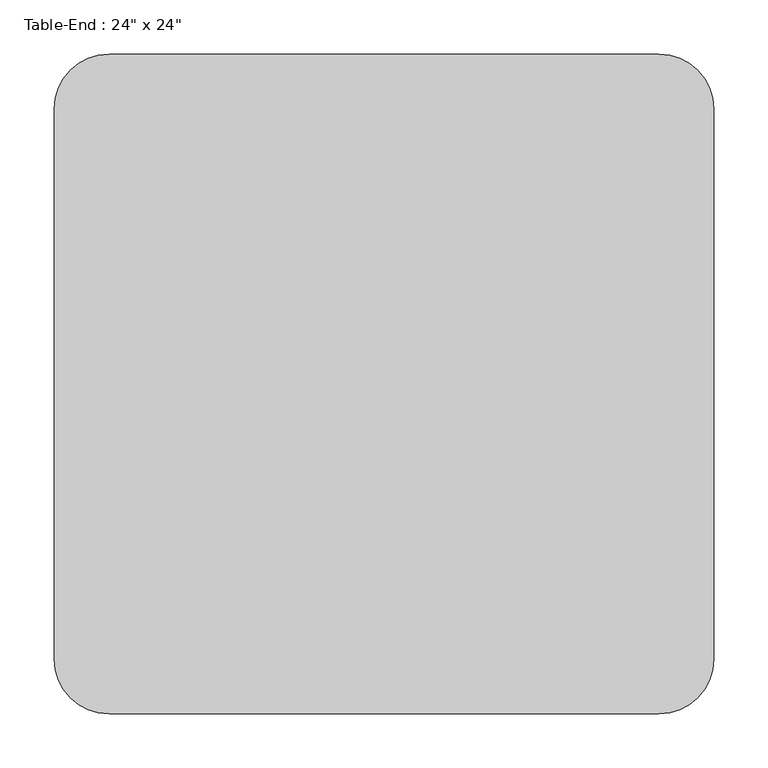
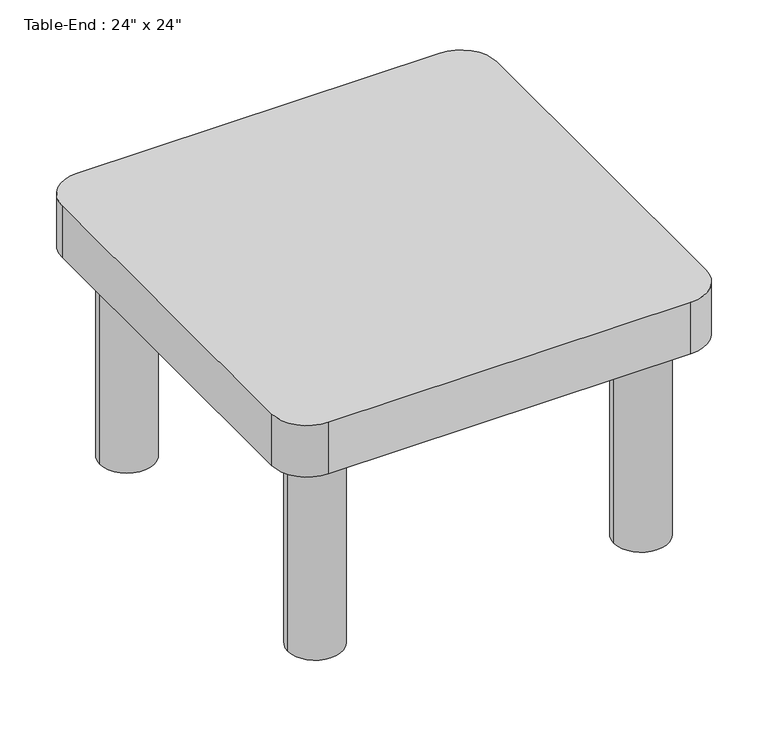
"""IFC4 building model written with IfcOpenShell, lengths in millimetres: furniture geometry."""

import ifcopenshell
import ifcopenshell.guid

model = None  # the IFC model being written
_history = None  # IfcOwnerHistory: only IFC2X3 demands one
_inside = {}  # id of a spatial element -> (the spatial element, [elements in it])
_under = {}  # id of a project, library or spatial element -> (it, [spatial elements below it])
_declared = {}  # id of a project -> (the project, [libraries it declares])
_typed = {}  # id of a type object -> (the type object, [elements of that type])
_made_of = {}  # id of a material, layer set ... -> (it, [elements and type objects made of it])


def new_model(schema):
    """Start an empty IFC model of exactly this schema.

    Asked for "IFC4X3", IfcOpenShell would pick the latest addendum, in which some entities
    have other attributes; the version numbers below select the first issue.
    IFC2X3 requires an IfcOwnerHistory on every rooted entity: one is made here for all.
    """
    global model, _history
    if schema == "IFC4X3":
        model = ifcopenshell.file(schema_version=(4, 3, 0, 0))
    else:
        model = ifcopenshell.file(schema=schema)
    _inside.clear()
    _under.clear()
    _declared.clear()
    _typed.clear()
    _made_of.clear()
    _history = None
    if model.schema == "IFC2X3":
        org = make("IfcOrganization", Name="unknown")
        user = make(
            "IfcPersonAndOrganization",
            ThePerson=make("IfcPerson", FamilyName="unknown"),
            TheOrganization=org,
        )
        app = make(
            "IfcApplication",
            ApplicationDeveloper=org,
            Version="unknown",
            ApplicationFullName="unknown",
            ApplicationIdentifier="unknown",
        )
        _history = make(
            "IfcOwnerHistory",
            OwningUser=user,
            OwningApplication=app,
            ChangeAction="ADDED",
            CreationDate=0,
        )
    return model


def make(cls, **values):
    """One entity of the class cls with the attributes given. An attribute that is None is left unset."""
    return model.create_entity(
        cls, **{name: value for name, value in values.items() if value is not None}
    )


def rooted(cls, **values):
    """An entity with a GlobalId (a new one), such as an element, a storey or a relation."""
    return make(cls, GlobalId=ifcopenshell.guid.new(), OwnerHistory=_history, **values)


def si_unit(unit_type, name, prefix=None):
    """IfcSIUnit, for example si_unit("LENGTHUNIT", "METRE", prefix="MILLI")."""
    return make("IfcSIUnit", UnitType=unit_type, Prefix=prefix, Name=name)


def assignment(units):
    """IfcUnitAssignment: the units of a project."""
    return None if units is None else make("IfcUnitAssignment", Units=units)


def point(xyz):
    """IfcCartesianPoint."""
    return None if xyz is None else make("IfcCartesianPoint", Coordinates=xyz)


def direction(xyz):
    """IfcDirection."""
    return None if xyz is None else make("IfcDirection", DirectionRatios=xyz)


def frame(location, z_axis=None, x_axis=None):
    """IfcAxis2Placement3D, a coordinate frame: its origin and axes. An axis left out is left unset."""
    return make(
        "IfcAxis2Placement3D",
        Location=point(location),
        Axis=direction(z_axis),
        RefDirection=direction(x_axis),
    )


def frame_2d(location, x_axis=None):
    """IfcAxis2Placement2D, a coordinate frame in the plane: its origin and x axis."""
    return make(
        "IfcAxis2Placement2D", Location=point(location), RefDirection=direction(x_axis)
    )


def origin():
    """The frame at (0, 0, 0) with its axes left unset."""
    return frame((0.0, 0.0, 0.0))


def origin_with_axes():
    """The frame at (0, 0, 0) with the z axis (0, 0, 1) and the x axis (1, 0, 0) written out."""
    return frame((0.0, 0.0, 0.0), z_axis=(0.0, 0.0, 1.0), x_axis=(1.0, 0.0, 0.0))


def place(relative_to, where):
    """IfcLocalPlacement: puts the frame where relative to a parent placement (None: the world)."""
    return make(
        "IfcLocalPlacement", PlacementRelTo=relative_to, RelativePlacement=where
    )


def context(
    kind, dimensions, precision=None, world=None, true_north=None, identifier=None
):
    """IfcGeometricRepresentationContext, for example the 3D "Model" context."""
    return make(
        "IfcGeometricRepresentationContext",
        ContextIdentifier=identifier,
        ContextType=kind,
        CoordinateSpaceDimension=dimensions,
        Precision=precision,
        WorldCoordinateSystem=world,
        TrueNorth=true_north,
    )


def project(units=None, contexts=None):
    """IfcProject with its units and contexts."""
    return rooted(
        "IfcProject",
        Name="project",
        RepresentationContexts=contexts,
        UnitsInContext=assignment(units),
    )


def spatial(cls, under=None, at=None, **own):
    """A site, building, storey or space (cls), placed at a placement, below another one or the project."""
    s = rooted(cls, ObjectPlacement=at, **own)
    if under is not None:
        _under.setdefault(under.id(), (under, []))[1].append(s)
    return s


def polyline(points):
    """IfcPolyline through the points."""
    return make("IfcPolyline", Points=[point(p) for p in points])


def circle_curve(where, radius):
    """IfcCircle in the frame where."""
    return make("IfcCircle", Position=where, Radius=radius)


def trimmed(basis, trim1, trim2, sense, master):
    """IfcTrimmedCurve: the piece of a basis curve between two trims."""
    return make(
        "IfcTrimmedCurve",
        BasisCurve=basis,
        Trim1=trim1,
        Trim2=trim2,
        SenseAgreement=sense,
        MasterRepresentation=master,
    )


def segment(curve, same_sense, transition):
    """IfcCompositeCurveSegment."""
    return make(
        "IfcCompositeCurveSegment",
        Transition=transition,
        SameSense=same_sense,
        ParentCurve=curve,
    )


def composite_curve(segments, self_intersect=None):
    """IfcCompositeCurve: segments joined end to end."""
    return make("IfcCompositeCurve", Segments=segments, SelfIntersect=self_intersect)


def outline(outer, holes=None, kind="AREA"):
    """IfcArbitraryClosedProfileDef: a profile drawn as a closed curve; with holes, ...WithVoids."""
    if holes is None:
        return make("IfcArbitraryClosedProfileDef", ProfileType=kind, OuterCurve=outer)
    return make(
        "IfcArbitraryProfileDefWithVoids",
        ProfileType=kind,
        OuterCurve=outer,
        InnerCurves=holes,
    )


def extrude(swept, where, along, depth):
    """IfcExtrudedAreaSolid: the profile swept, set in the frame where, extruded along a direction by depth."""
    return make(
        "IfcExtrudedAreaSolid",
        SweptArea=swept,
        Position=where,
        ExtrudedDirection=direction(along),
        Depth=depth,
    )


def shape(context_of_items, identifier, shape_type, items):
    """IfcShapeRepresentation: the items that make up one representation, for example the "Body"."""
    return make(
        "IfcShapeRepresentation",
        ContextOfItems=context_of_items,
        RepresentationIdentifier=identifier,
        RepresentationType=shape_type,
        Items=items,
    )


def source(mapping_origin, context_of_items, identifier, shape_type, items):
    """IfcRepresentationMap: a shape defined once, which mapped items show again and again."""
    return make(
        "IfcRepresentationMap",
        MappingOrigin=mapping_origin,
        MappedRepresentation=shape(context_of_items, identifier, shape_type, items),
    )


def transform(
    local_origin,
    x_axis=None,
    y_axis=None,
    z_axis=None,
    scale=None,
    scale2=None,
    scale3=None,
    uniform=True,
):
    """IfcCartesianTransformationOperator3D, or its non-uniform kind. x_axis, y_axis, z_axis: its Axis1, 2, 3."""
    if uniform:
        return make(
            "IfcCartesianTransformationOperator3D",
            Axis1=direction(x_axis),
            Axis2=direction(y_axis),
            LocalOrigin=point(local_origin),
            Scale=scale,
            Axis3=direction(z_axis),
        )
    return make(
        "IfcCartesianTransformationOperator3DnonUniform",
        Axis1=direction(x_axis),
        Axis2=direction(y_axis),
        LocalOrigin=point(local_origin),
        Scale=scale,
        Axis3=direction(z_axis),
        Scale2=scale2,
        Scale3=scale3,
    )


def mapped(mapping_source, mapping_target):
    """IfcMappedItem: shows the shape of a source again, moved by a transform."""
    return make(
        "IfcMappedItem", MappingSource=mapping_source, MappingTarget=mapping_target
    )


def made_of(thing, what):
    """Note that an element or type object is made of a material, layer set ...; save() writes the relation."""
    if what is not None:
        _made_of.setdefault(what.id(), (what, []))[1].append(thing)
    return thing


def element(
    cls,
    number,
    at=None,
    inside=None,
    cuts=None,
    type_object=None,
    material=None,
    context=None,
    identifier="Body",
    shape_type=None,
    held_by="IfcProductDefinitionShape",
    body=None,
    shapes=None,
    **own,
):
    """One element of the class cls, such as IfcWall. Its Tag is "e" and its number.

    at: its placement. inside: the storey or other place that contains it. cuts: it is an
    opening in that element (IfcRelVoidsElement). A single representation is given by context,
    identifier, shape_type and body (its items); several are given by shapes. held_by: the class
    of the entity that holds the representations. save() writes the other relations.
    """
    e = rooted(cls, Tag="e%d" % number, ObjectPlacement=at, **own)
    if body is not None:
        shapes = [shape(context, identifier, shape_type, body)]
    if shapes is not None:
        e.Representation = make(held_by, Representations=shapes)
    if inside is not None:
        _inside.setdefault(inside.id(), (inside, []))[1].append(e)
    if cuts is not None:
        rooted(
            "IfcRelVoidsElement", RelatingBuildingElement=cuts, RelatedOpeningElement=e
        )
    if type_object is not None:
        _typed.setdefault(type_object.id(), (type_object, []))[1].append(e)
    return made_of(e, material)


def aggregate(whole, parts):
    """IfcRelAggregates: a whole, such as a stair, and the parts it consists of."""
    return rooted("IfcRelAggregates", RelatingObject=whole, RelatedObjects=parts)


def save(model, path):
    """Write the relations noted so far, then the file.

    IfcRelAggregates (storeys below a building ...), IfcRelContainedInSpatialStructure (elements
    in a storey), IfcRelDefinesByType, IfcRelAssociatesMaterial and IfcRelDeclares: one each for
    every whole, place, type object, material and project.
    """
    for whole, parts in _under.values():
        aggregate(whole, parts)
    for where, things in _inside.values():
        rooted(
            "IfcRelContainedInSpatialStructure",
            RelatedElements=things,
            RelatingStructure=where,
        )
    for kind, things in _typed.values():
        rooted("IfcRelDefinesByType", RelatedObjects=things, RelatingType=kind)
    for what, things in _made_of.values():
        rooted("IfcRelAssociatesMaterial", RelatedObjects=things, RelatingMaterial=what)
    for by, libraries in _declared.values():
        rooted("IfcRelDeclares", RelatingContext=by, RelatedDefinitions=libraries)
    model.write(path)


def furniture_3a588284(model_context):
    return source(origin(), model_context, "Body", "SweptSolid", [
        extrude(outline(composite_curve([segment(polyline([(562.5336303, -152.4), (54.5336303, -152.4)]), True, "CONTINUOUS"), segment(trimmed(circle_curve(frame_2d((54.5336303, -101.6)), 50.8), [point((54.5336303, -152.4))], [point((3.7336303, -101.6))], False, "CARTESIAN"), True, "CONTINUOUS"), segment(polyline([(3.7336303, -101.6), (3.7336303, 406.4)]), True, "CONTINUOUS"), segment(trimmed(circle_curve(frame_2d((54.5336303, 406.4)), 50.8), [point((3.7336303, 406.4))], [point((54.5336303, 457.2))], False, "CARTESIAN"), True, "CONTINUOUS"), segment(polyline([(54.5336303, 457.2), (562.5336303, 457.2)]), True, "CONTINUOUS"), segment(trimmed(circle_curve(frame_2d((562.5336303, 406.4)), 50.8), [point((562.5336303, 457.2))], [point((613.3336303, 406.4))], False, "CARTESIAN"), True, "CONTINUOUS"), segment(polyline([(613.3336303, 406.4), (613.3336303, -101.6)]), True, "CONTINUOUS"), segment(trimmed(circle_curve(frame_2d((562.5336303, -101.6)), 50.8), [point((613.3336303, -101.6))], [point((562.5336303, -152.4))], False, "CARTESIAN"), True, "CONTINUOUS")], self_intersect=False)), frame((0.0, 0.0, 304.8), z_axis=(0.0, 0.0, 1.0), x_axis=(1.0, 0.0, 0.0)), (0.0, 0.0, 1.0), 76.2),
        extrude(outline(composite_curve([segment(trimmed(circle_curve(frame_2d((79.9336303, 381.0)), 38.1), [point((41.8336303, 381.0))], [point((118.0336303, 381.0))], False, "CARTESIAN"), True, "CONTINUOUS"), segment(trimmed(circle_curve(frame_2d((79.9336303, 381.0)), 38.1), [point((118.0336303, 381.0))], [point((41.8336303, 381.0))], False, "CARTESIAN"), True, "CONTINUOUS")], self_intersect=False)), origin_with_axes(), (0.0, 0.0, 1.0), 304.8),
        extrude(outline(composite_curve([segment(trimmed(circle_curve(frame_2d((79.9336303, -76.2)), 38.1), [point((41.8336303, -76.2))], [point((118.0336303, -76.2))], False, "CARTESIAN"), True, "CONTINUOUS"), segment(trimmed(circle_curve(frame_2d((79.9336303, -76.2)), 38.1), [point((118.0336303, -76.2))], [point((41.8336303, -76.2))], False, "CARTESIAN"), True, "CONTINUOUS")], self_intersect=False)), origin_with_axes(), (0.0, 0.0, 1.0), 304.8),
        extrude(outline(composite_curve([segment(trimmed(circle_curve(frame_2d((537.1336303, -76.2)), 38.1), [point((499.0336303, -76.2))], [point((575.2336303, -76.2))], False, "CARTESIAN"), True, "CONTINUOUS"), segment(trimmed(circle_curve(frame_2d((537.1336303, -76.2)), 38.1), [point((575.2336303, -76.2))], [point((499.0336303, -76.2))], False, "CARTESIAN"), True, "CONTINUOUS")], self_intersect=False)), origin_with_axes(), (0.0, 0.0, 1.0), 304.8),
        extrude(outline(composite_curve([segment(trimmed(circle_curve(frame_2d((537.1336303, 381.0)), 38.1), [point((499.0336303, 381.0))], [point((575.2336303, 381.0))], False, "CARTESIAN"), True, "CONTINUOUS"), segment(trimmed(circle_curve(frame_2d((537.1336303, 381.0)), 38.1), [point((575.2336303, 381.0))], [point((499.0336303, 381.0))], False, "CARTESIAN"), True, "CONTINUOUS")], self_intersect=False)), origin_with_axes(), (0.0, 0.0, 1.0), 304.8),
    ])


if __name__ == "__main__":
    model = new_model("IFC4")
    model_context = context("Model", 3, world=origin())
    ifc_project = project(units=[si_unit("LENGTHUNIT", "METRE", prefix="MILLI")], contexts=[model_context])
    site = spatial("IfcSite", under=ifc_project)
    building = spatial("IfcBuilding", under=site)
    placement = place(None, origin())
    furniture_shape = furniture_3a588284(model_context)
    element("IfcFurniture", 1, ObjectType="Table-End : 24\" x 24\"", at=placement, inside=building, context=model_context, shape_type="MappedRepresentation", body=[
        mapped(furniture_shape, transform((0.0, 0.0, 0.0), x_axis=(1.0, 0.0, 0.0), y_axis=(0.0, 1.0, 0.0), z_axis=(0.0, 0.0, 1.0))),
    ])
    save(model, "model.ifc")
